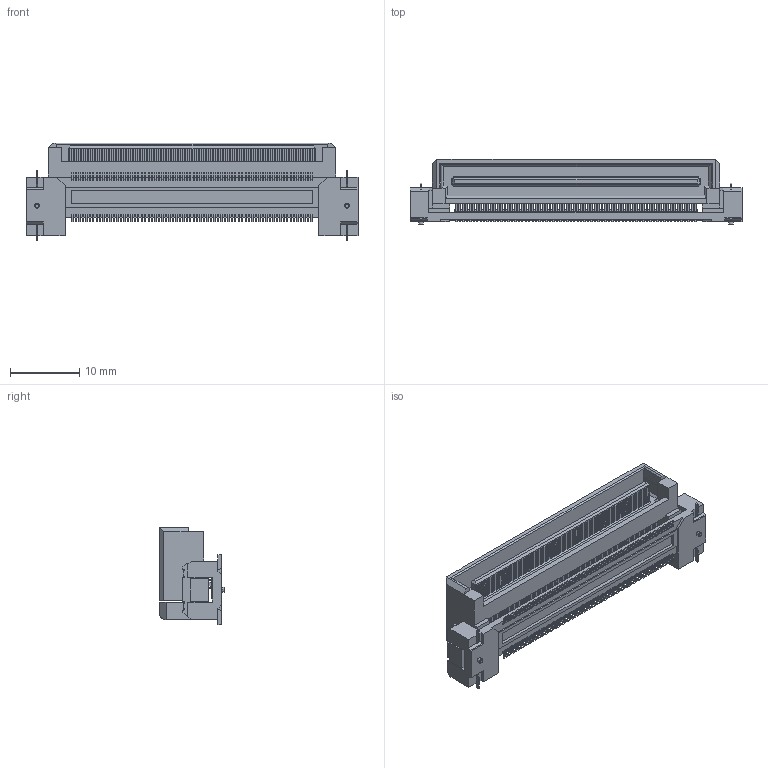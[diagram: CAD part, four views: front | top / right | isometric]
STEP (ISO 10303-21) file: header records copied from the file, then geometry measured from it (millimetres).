
FILE_DESCRIPTION(('Creo Elements/Direct Modeling STEP Export'),'2;1');
FILE_NAME('DT01-140L.stp','2018-11-12T16:49:50',(''),(''),'Creo Elements/Direct Modeling STEP processor for AP214 (Solid Model)','Creo Elements/Direct Modeling 19.0F 14-Feb-2017 (C) Parametric Technology GmbH','');
FILE_SCHEMA(('AUTOMOTIVE_DESIGN { 1 0 10303 214 1 1 1 1 }'));
Products named in the file (2): DT01-140L_model
Assembly tree (1 placements, depth 2):
  DT01-140L_model
    DT01-140L_model
Bounding box: 47.92 x 9.5 x 14.09 mm (x, y, z)
Volume: 1700.7 mm3; surface area: 4125.7 mm2
Topology: 1 solids, 1 shells, 6483 faces, 18334 edges, 11928 vertices
Faces by surface type: plane 5205, cylinder 1274, cone 4
Entity records: 200850 total; most frequent: ORIENTED_EDGE 36668, CARTESIAN_POINT 35252, DIRECTION 31814, EDGE_CURVE 18334, VECTOR 14834, LINE 14834, VERTEX_POINT 11928, AXIS2_PLACEMENT_3D 8490
